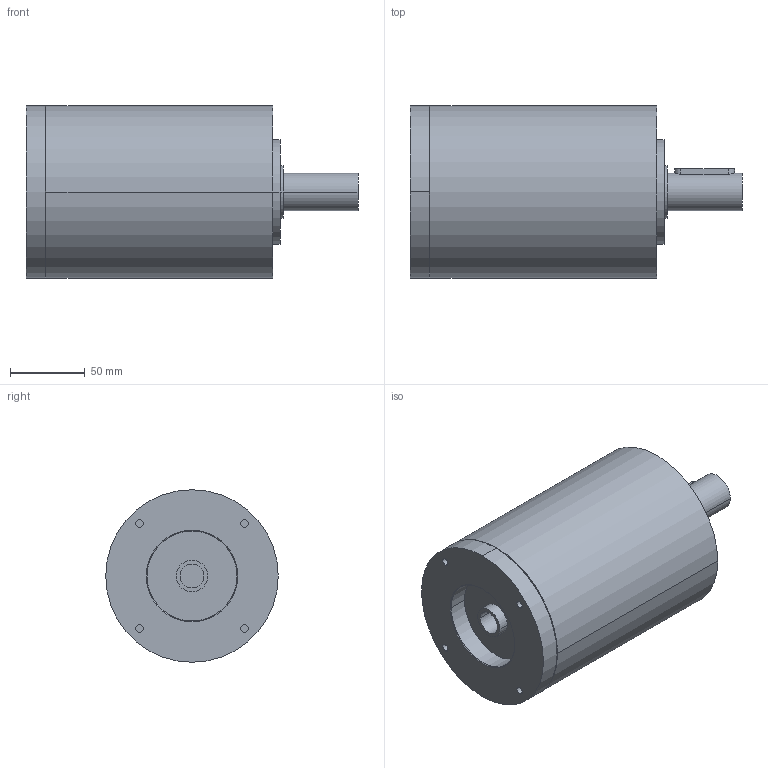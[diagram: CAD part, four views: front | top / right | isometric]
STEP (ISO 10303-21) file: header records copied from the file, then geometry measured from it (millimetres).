
FILE_DESCRIPTION(('CoCreate Modeling STEP Export'),'2;1');
FILE_NAME('GPR125_ig-9-12-16-20-28-35_25_B14_15.87_P20.stp','2014-08-26T14:10:11',(''),(''),'CoCreate Modeling STEP processor for AP214 (Solid Model)','CoCreate Modeling 16.00C 25-Feb-2009 (C) Parametric Technology GmbH','');
FILE_SCHEMA(('AUTOMOTIVE_DESIGN { 1 0 10303 214 1 1 1 1 }'));
Length unit declared in the file: millimetre
Products named in the file (2): GPR125_ig-9-12-16-20-28-35_25_B14_15.87_P20
Assembly tree (1 placements, depth 2):
  GPR125_ig-9-12-16-20-28-35_25_B14_15.87_P20
    GPR125_ig-9-12-16-20-28-35_25_B14_15.87_P20
Bounding box: 221.4 x 115 x 115 mm (x, y, z)
Volume: 1706411.1 mm3; surface area: 94044.1 mm2
Topology: 1 solids, 1 shells, 62 faces, 157 edges, 111 vertices
Faces by surface type: cylinder 36, plane 20, cone 6
Entity records: 1605 total; most frequent: ORIENTED_EDGE 310, CARTESIAN_POINT 306, DIRECTION 206, EDGE_CURVE 155, VERTEX_POINT 111, AXIS2_PLACEMENT_3D 79, EDGE_LOOP 78, FACE_OUTER_BOUND 62
